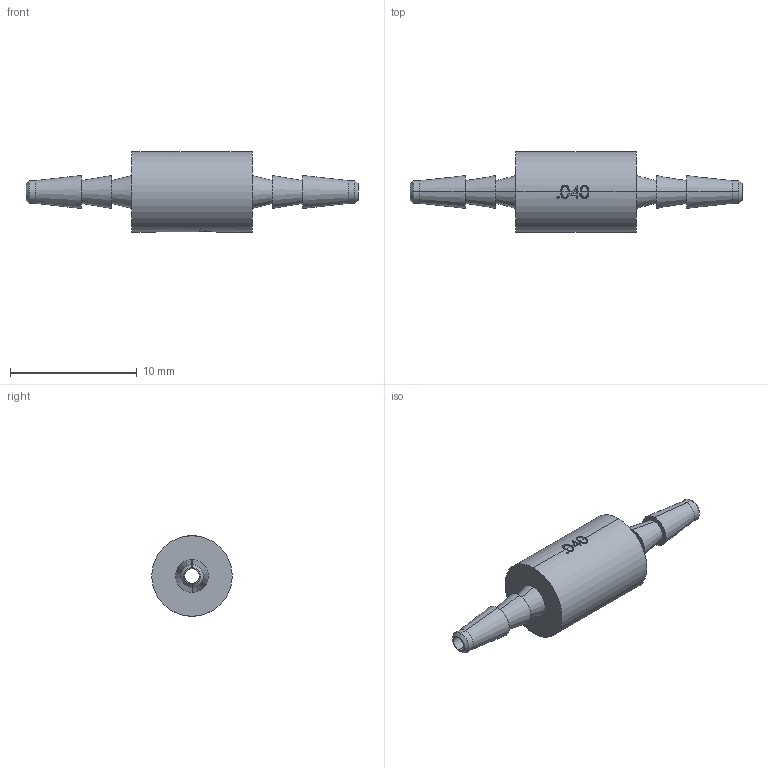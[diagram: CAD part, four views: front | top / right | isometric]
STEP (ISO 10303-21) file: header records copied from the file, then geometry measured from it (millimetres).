
FILE_DESCRIPTION(/* description */ ('SolidWorks IGES file using analytic representation for surfaces '),/* implementation_level */ '2;1');
FILE_NAME(/* name */ 'K:\Normteile INVENTOR\Air-Logic\Orifice restrictors\F-2815-401-B80.IGS.ipt.stp',/* time_stamp */ '2020-05-27T10:46:56+02:00',/* author */ ('cad'),/* organization */ (''),/* preprocessor_version */ 'ST-DEVELOPER v18',/* originating_system */ 'Autodesk Inventor 2020',/* authorisation */ '');
FILE_SCHEMA (('AUTOMOTIVE_DESIGN { 1 0 10303 214 3 1 1 }'));
Length unit declared in the file: millimetre
Products named in the file (1): F-2815-401-B80.IGS
Bounding box: 26.21 x 6.35 x 6.35 mm (x, y, z)
Surface area: 467.1 mm2 (no closed solid volume)
Topology: 0 solids, 88 shells, 88 faces, 435 edges, 435 vertices
Faces by surface type: bspline 26, plane 24, cylinder 22, cone 16
Entity records: 7805 total; most frequent: CARTESIAN_POINT 4408, DIRECTION 574, VERTEX_POINT 435, EDGE_CURVE 435, ORIENTED_EDGE 435, LINE 222, VECTOR 222, AXIS2_PLACEMENT_3D 176
